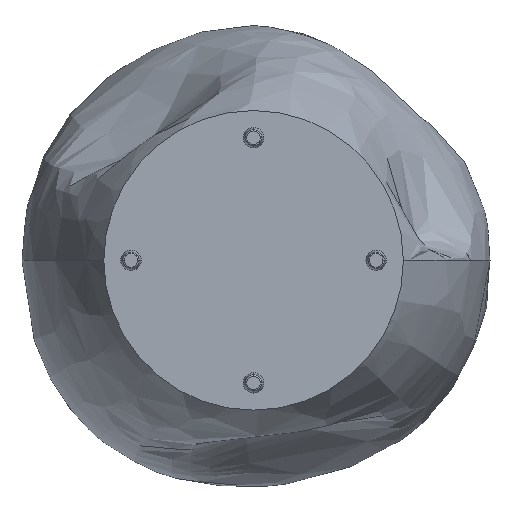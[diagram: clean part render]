
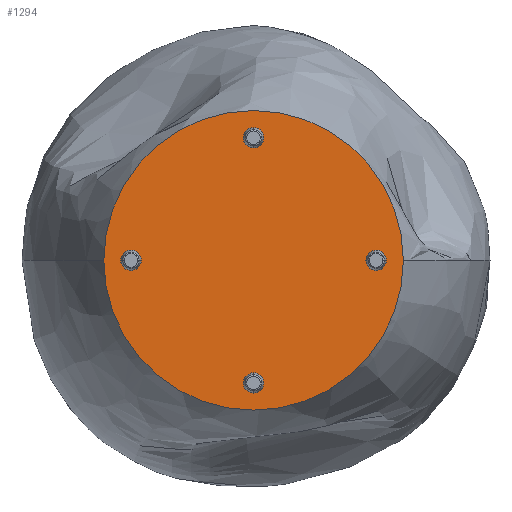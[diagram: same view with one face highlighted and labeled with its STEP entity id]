
A CAD part, front view. The second image highlights one B-rep face of the part: STEP entity #1294.
In plain terms, the highlighted planar face has unit normal (0, -1, 0).
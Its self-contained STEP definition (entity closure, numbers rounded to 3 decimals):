
#127 = CARTESIAN_POINT ( 'NONE',  ( 110., -228., 0. ) ) ;
#337 = EDGE_CURVE ( 'NONE', #1297, #411, #1090, .T. ) ;
#411 = VERTEX_POINT ( 'NONE', #127 ) ;
#427 = DIRECTION ( 'NONE',  ( 1., 0., 0. ) ) ;
#567 = DIRECTION ( 'NONE',  ( 0., -1., 0. ) ) ;
#570 = CARTESIAN_POINT ( 'NONE',  ( 0., -228., 0. ) ) ;
#599 = DIRECTION ( 'NONE',  ( 0., -1., 0. ) ) ;
#681 = ORIENTED_EDGE ( 'NONE', *, *, #337, .T. ) ;
#730 = ORIENTED_EDGE ( 'NONE', *, *, #1492, .T. ) ;
#1021 = AXIS2_PLACEMENT_3D ( 'NONE', #570, #1613, #1251 ) ;
#1083 = PLANE ( 'NONE',  #1585 ) ;
#1090 = CIRCLE ( 'NONE', #1021, 110. ) ;
#1251 = DIRECTION ( 'NONE',  ( 1., 0., 0. ) ) ;
#1292 = CARTESIAN_POINT ( 'NONE',  ( 0., -228., 0. ) ) ;
#1294 = ADVANCED_FACE ( 'NONE', ( #2230 ), #1083, .T. ) ;
#1297 = VERTEX_POINT ( 'NONE', #1801 ) ;
#1492 = EDGE_CURVE ( 'NONE', #411, #1297, #1819, .T. ) ;
#1585 = AXIS2_PLACEMENT_3D ( 'NONE', #1599, #567, #1619 ) ;
#1599 = CARTESIAN_POINT ( 'NONE',  ( 0., -228., 0. ) ) ;
#1613 = DIRECTION ( 'NONE',  ( 0., -1., 0. ) ) ;
#1619 = DIRECTION ( 'NONE',  ( 1., 0., 0. ) ) ;
#1630 = EDGE_LOOP ( 'NONE', ( #681, #730 ) ) ;
#1801 = CARTESIAN_POINT ( 'NONE',  ( -110., -228., 0. ) ) ;
#1819 = CIRCLE ( 'NONE', #1965, 110. ) ;
#1965 = AXIS2_PLACEMENT_3D ( 'NONE', #1292, #599, #427 ) ;
#2230 = FACE_OUTER_BOUND ( 'NONE', #1630, .T. ) ;
